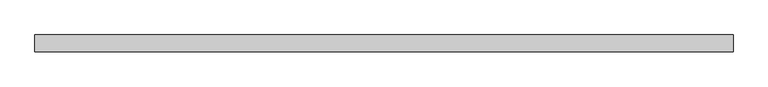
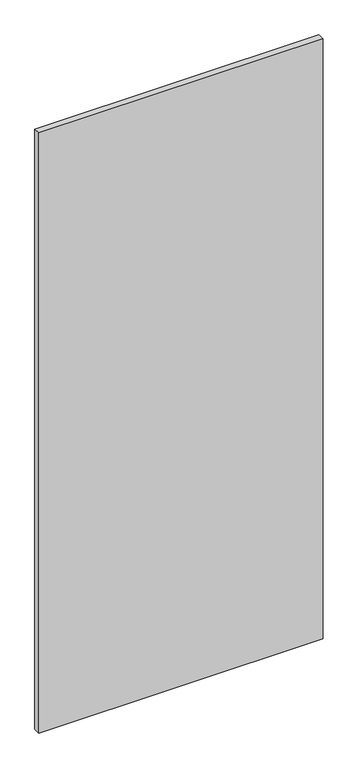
"""IFC4 building model written with IfcOpenShell, lengths in millimetres: plate geometry, Системная панель : ADSK_Cтеклопакет_25 мм."""

from ifc_helpers import new_model, si_unit, origin, origin_with_axes, place, context, project, spatial, polyline, outline, extrude, source, transform, mapped, element, save


def plate_43bee1a1(model_context):
    return source(origin(), model_context, "Body", "SweptSolid", [
        extrude(outline(polyline([(518.75, -12.5), (-518.75, -12.5), (-518.75, 12.5), (518.75, 12.5), (518.75, -12.5)])), origin_with_axes(), (0.0, 0.0, 1.0), 2315.0),
    ])


if __name__ == "__main__":
    model = new_model("IFC4")
    model_context = context("Model", 3, world=origin())
    ifc_project = project(units=[si_unit("LENGTHUNIT", "METRE", prefix="MILLI")], contexts=[model_context])
    site = spatial("IfcSite", under=ifc_project)
    building = spatial("IfcBuilding", under=site)
    placement = place(None, origin())
    plate_shape = plate_43bee1a1(model_context)
    element("IfcPlate", 1, ObjectType="Системная панель : ADSK_Cтеклопакет_25 мм", at=placement, inside=building, context=model_context, shape_type="MappedRepresentation", body=[
        mapped(plate_shape, transform((0.0, 0.0, 0.0), x_axis=(1.0, 0.0, 0.0), y_axis=(0.0, 1.0, 0.0), z_axis=(0.0, 0.0, 1.0))),
    ])
    save(model, "model.ifc")
